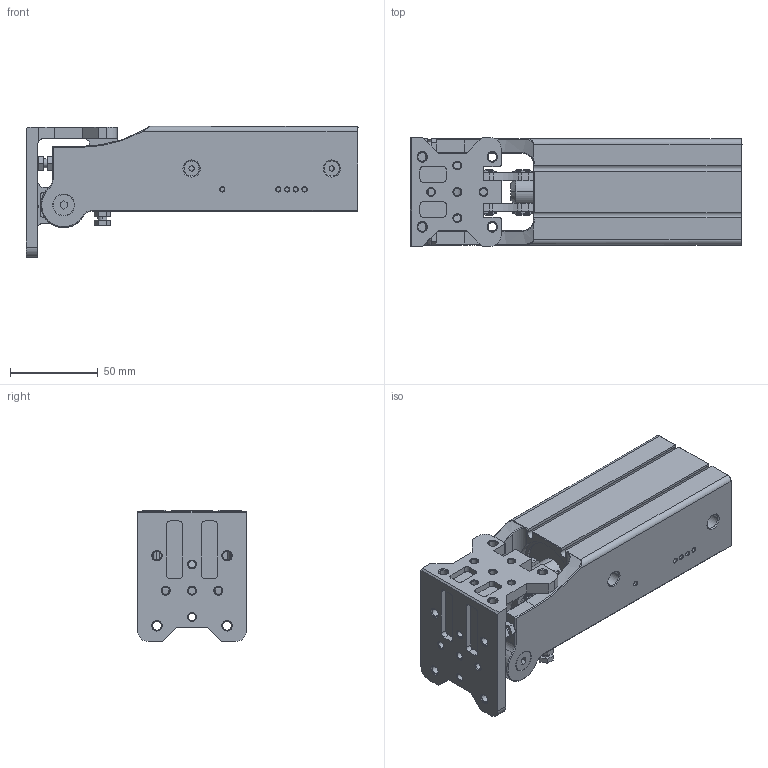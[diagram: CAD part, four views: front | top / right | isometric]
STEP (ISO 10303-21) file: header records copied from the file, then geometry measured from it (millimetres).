
FILE_DESCRIPTION((''),'2;1');
FILE_NAME('DHR2C-40M45ZG-LB-TB_ASM','2019-03-14T',('Administrator'),(''),'PRO/ENGINEER BY PARAMETRIC TECHNOLOGY CORPORATION, 2009280','PRO/ENGINEER BY PARAMETRIC TECHNOLOGY CORPORATION, 2009280','');
FILE_SCHEMA(('CONFIG_CONTROL_DESIGN'));
Length unit declared in the file: millimetre
Products named in the file (14): DHR2C-40M45ZG-LB-BENTI; DHR2C-40M45ZG-HOUGAI; DHR2C-40M45ZG-QIANGAI; DHR2C-40M45ZG-HUOSAIGAN; DHR2C-40M45ZG-51100ZHOUCHENG; DHR2C-40M45ZG-ZHOUCHENGGAN; LD-32M5001-009; LD-32M5X12; KAHUAN42; DHR2C-40M45ZG-LB-TIEBAN; JLP-32PIAN001-003; DHR2C-40M45ZG-LIANJIEGAN; KH-32HUAN001-005; DHR2C-40M45ZG-LB-TB_ASM
Assembly tree (24 placements, depth 2):
  DHR2C-40M45ZG-LB-TB_ASM
    DHR2C-40M45ZG-LB-BENTI
    DHR2C-40M45ZG-HOUGAI
    DHR2C-40M45ZG-QIANGAI
    DHR2C-40M45ZG-HUOSAIGAN
    DHR2C-40M45ZG-51100ZHOUCHENG  x2
    DHR2C-40M45ZG-ZHOUCHENGGAN
    LD-32M5001-009  x2
    LD-32M5X12  x4
    KAHUAN42  x2
    DHR2C-40M45ZG-LB-TIEBAN
    JLP-32PIAN001-003  x2
    DHR2C-40M45ZG-LIANJIEGAN  x2
    KH-32HUAN001-005  x4
Bounding box: 189.5 x 62 x 74.8 mm (x, y, z)
Volume: 383871.5 mm3; surface area: 126609.8 mm2
Topology: 50 solids, 50 shells, 887 faces, 2130 edges, 1300 vertices
Faces by surface type: cylinder 332, plane 325, cone 170, sphere 48, torus 8, bspline 4
Entity records: 19751 total; most frequent: CARTESIAN_POINT 3644, DIRECTION 3576, ORIENTED_EDGE 3088, EDGE_CURVE 1544, AXIS2_PLACEMENT_3D 1378, VERTEX_POINT 972, VECTOR 820, LINE 820
